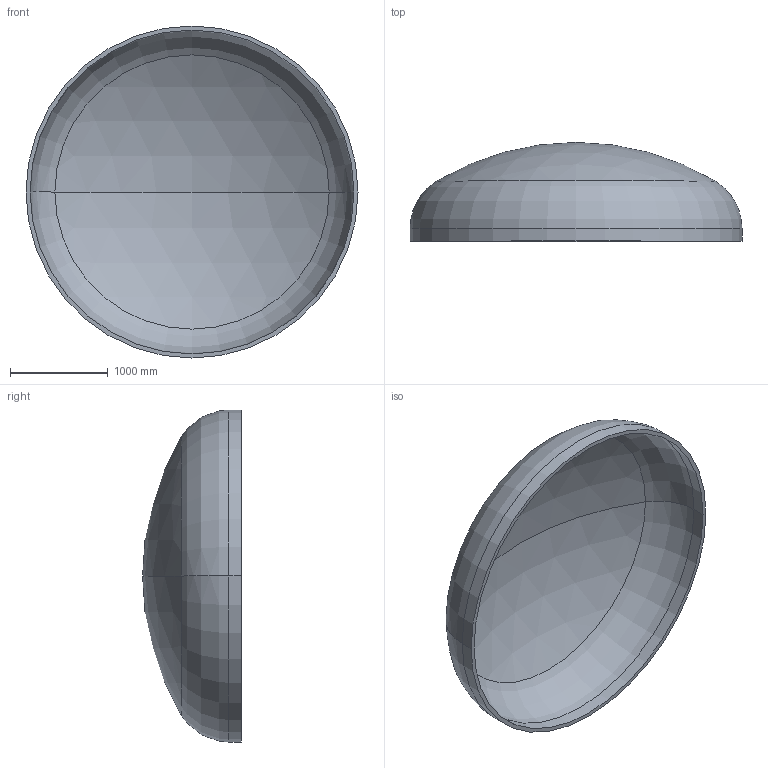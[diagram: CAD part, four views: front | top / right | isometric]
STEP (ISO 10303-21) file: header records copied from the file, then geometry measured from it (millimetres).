
FILE_DESCRIPTION (( 'STEP AP203' ), '1' );
FILE_NAME ('DIN 28013 Korbbogenform_-_Boden DIN 28013 - 3400 x 130 - I - s=42.step', '2016-07-01T19:30:26', ( '' ), ( '' ), 'SwSTEP 2.0', 'SolidWorks 2013', '' );
FILE_SCHEMA (( 'CONFIG_CONTROL_DESIGN' ));
Length unit declared in the file: millimetre
Products named in the file (1): DIN 28013 Korbbogenform_-_Boden DIN 28013 - 3400 x 130 - I - s=42
Bounding box: 3400 x 1012.02 x 3400 mm (x, y, z)
Volume: 577450206.4 mm3; surface area: 27944391.3 mm2
Topology: 1 solids, 1 shells, 13 faces, 24 edges, 14 vertices
Faces by surface type: torus 4, cylinder 4, sphere 4, plane 1
Entity records: 407 total; most frequent: DIRECTION 72, CARTESIAN_POINT 52, ORIENTED_EDGE 48, AXIS2_PLACEMENT_3D 34, EDGE_CURVE 24, CIRCLE 20, VERTEX_POINT 14, EDGE_LOOP 14
